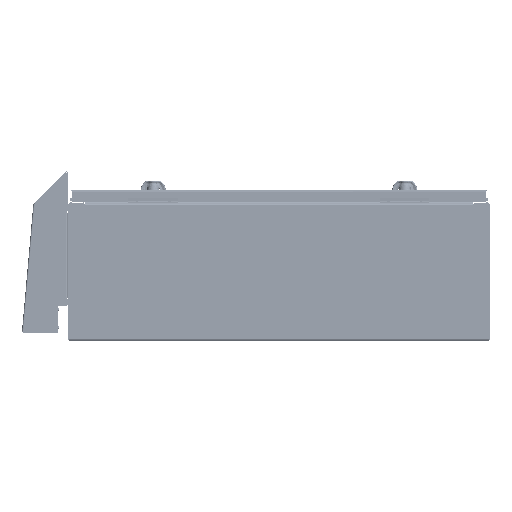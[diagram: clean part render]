
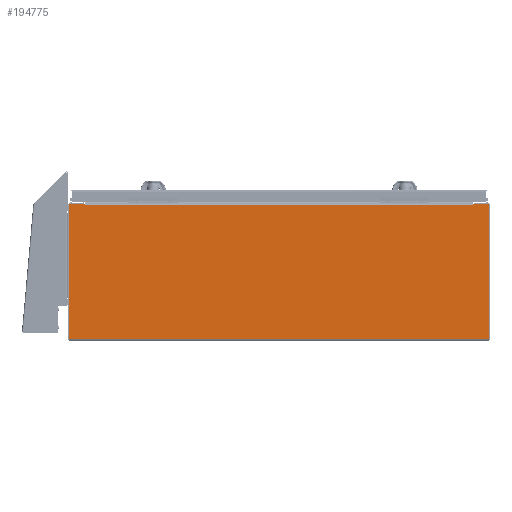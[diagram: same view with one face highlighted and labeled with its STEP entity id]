
A CAD part, left-side view. The second image highlights one B-rep face of the part: STEP entity #194775.
In plain terms, the highlighted planar face has unit normal (-1, 0, 0).
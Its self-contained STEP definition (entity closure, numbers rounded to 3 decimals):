
#11309 = AXIS2_PLACEMENT_3D ( 'NONE', #229290, #229331, #229335 ) ;
#28377 = CARTESIAN_POINT ( 'NONE',  ( -11.811, 16.716, 5.744 ) ) ;
#28378 = CARTESIAN_POINT ( 'NONE',  ( -11.811, 16.716, 5.814 ) ) ;
#28380 = CARTESIAN_POINT ( 'NONE',  ( -11.811, -16.716, 5.744 ) ) ;
#28384 = CARTESIAN_POINT ( 'NONE',  ( -11.811, -16.716, 5.814 ) ) ;
#28435 = CARTESIAN_POINT ( 'NONE',  ( -11.811, 18.058, -5.754 ) ) ;
#28439 = CARTESIAN_POINT ( 'NONE',  ( -11.811, -18.058, -5.754 ) ) ;
#28441 = CARTESIAN_POINT ( 'NONE',  ( -11.811, -18.058, 5.814 ) ) ;
#28446 = CARTESIAN_POINT ( 'NONE',  ( -11.811, 18.058, 5.814 ) ) ;
#29881 = LINE ( 'NONE', #31992, #29904 ) ;
#29904 = VECTOR ( 'NONE', #31996, 39.37 ) ;
#29947 = LINE ( 'NONE', #32020, #29953 ) ;
#29953 = VECTOR ( 'NONE', #32024, 39.37 ) ;
#30209 = LINE ( 'NONE', #32174, #30215 ) ;
#30215 = VECTOR ( 'NONE', #32177, 39.37 ) ;
#30228 = LINE ( 'NONE', #32182, #30231 ) ;
#30231 = VECTOR ( 'NONE', #32183, 39.37 ) ;
#30246 = LINE ( 'NONE', #32190, #30247 ) ;
#30247 = VECTOR ( 'NONE', #32191, 39.37 ) ;
#30249 = LINE ( 'NONE', #32192, #30252 ) ;
#30252 = VECTOR ( 'NONE', #32193, 39.37 ) ;
#30254 = LINE ( 'NONE', #32194, #30256 ) ;
#30256 = VECTOR ( 'NONE', #32195, 39.37 ) ;
#30258 = LINE ( 'NONE', #32196, #30260 ) ;
#30260 = VECTOR ( 'NONE', #32197, 39.37 ) ;
#31992 = CARTESIAN_POINT ( 'NONE',  ( -11.811, 16.716, -5.906 ) ) ;
#31996 = DIRECTION ( 'NONE',  ( 0., 0., 1. ) ) ;
#32020 = CARTESIAN_POINT ( 'NONE',  ( -11.811, -16.716, -5.906 ) ) ;
#32024 = DIRECTION ( 'NONE',  ( 0., 0., -1. ) ) ;
#32174 = CARTESIAN_POINT ( 'NONE',  ( -11.811, 18.058, -5.754 ) ) ;
#32177 = DIRECTION ( 'NONE',  ( 0., -1., 0. ) ) ;
#32182 = CARTESIAN_POINT ( 'NONE',  ( -11.811, -18.058, 5.814 ) ) ;
#32183 = DIRECTION ( 'NONE',  ( 0., 1., 0. ) ) ;
#32190 = CARTESIAN_POINT ( 'NONE',  ( -11.811, 18.058, 5.814 ) ) ;
#32191 = DIRECTION ( 'NONE',  ( 0., 1., 0. ) ) ;
#32192 = CARTESIAN_POINT ( 'NONE',  ( -11.811, -18.058, -5.906 ) ) ;
#32193 = DIRECTION ( 'NONE',  ( 0., 0., -1. ) ) ;
#32194 = CARTESIAN_POINT ( 'NONE',  ( -11.811, -16.716, 5.744 ) ) ;
#32195 = DIRECTION ( 'NONE',  ( 0., 1., 0. ) ) ;
#32196 = CARTESIAN_POINT ( 'NONE',  ( -11.811, 18.058, -5.906 ) ) ;
#32197 = DIRECTION ( 'NONE',  ( 0., 0., -1. ) ) ;
#157435 = EDGE_LOOP ( 'NONE', ( #205199, #205200, #205201, #205202, #205203, #205204, #205205, #205206 ) ) ;
#190497 = VERTEX_POINT ( 'NONE', #28377 ) ;
#190498 = VERTEX_POINT ( 'NONE', #28378 ) ;
#190499 = VERTEX_POINT ( 'NONE', #28380 ) ;
#190501 = VERTEX_POINT ( 'NONE', #28384 ) ;
#190570 = VERTEX_POINT ( 'NONE', #28435 ) ;
#190575 = VERTEX_POINT ( 'NONE', #28439 ) ;
#190578 = VERTEX_POINT ( 'NONE', #28441 ) ;
#190586 = VERTEX_POINT ( 'NONE', #28446 ) ;
#194775 = ADVANCED_FACE ( 'NONE', ( #218213 ), #229308, .T. ) ;
#205199 = ORIENTED_EDGE ( 'NONE', *, *, #208360, .T. ) ;
#205200 = ORIENTED_EDGE ( 'NONE', *, *, #208728, .T. ) ;
#205201 = ORIENTED_EDGE ( 'NONE', *, *, #208741, .T. ) ;
#205202 = ORIENTED_EDGE ( 'NONE', *, *, #208696, .T. ) ;
#205203 = ORIENTED_EDGE ( 'NONE', *, *, #208733, .F. ) ;
#205204 = ORIENTED_EDGE ( 'NONE', *, *, #208710, .T. ) ;
#205205 = ORIENTED_EDGE ( 'NONE', *, *, #208411, .T. ) ;
#205206 = ORIENTED_EDGE ( 'NONE', *, *, #208738, .T. ) ;
#208360 = EDGE_CURVE ( 'NONE', #190497, #190498, #29881, .T. ) ;
#208411 = EDGE_CURVE ( 'NONE', #190501, #190499, #29947, .T. ) ;
#208696 = EDGE_CURVE ( 'NONE', #190570, #190575, #30209, .T. ) ;
#208710 = EDGE_CURVE ( 'NONE', #190578, #190501, #30228, .T. ) ;
#208728 = EDGE_CURVE ( 'NONE', #190498, #190586, #30246, .T. ) ;
#208733 = EDGE_CURVE ( 'NONE', #190578, #190575, #30249, .T. ) ;
#208738 = EDGE_CURVE ( 'NONE', #190499, #190497, #30254, .T. ) ;
#208741 = EDGE_CURVE ( 'NONE', #190586, #190570, #30258, .T. ) ;
#218213 = FACE_OUTER_BOUND ( 'NONE', #157435, .T. ) ;
#229290 = CARTESIAN_POINT ( 'NONE',  ( -11.811, 18.058, -5.906 ) ) ;
#229308 = PLANE ( 'NONE',  #11309 ) ;
#229331 = DIRECTION ( 'NONE',  ( -1., 0., 0. ) ) ;
#229335 = DIRECTION ( 'NONE',  ( 0., 0., 1. ) ) ;
